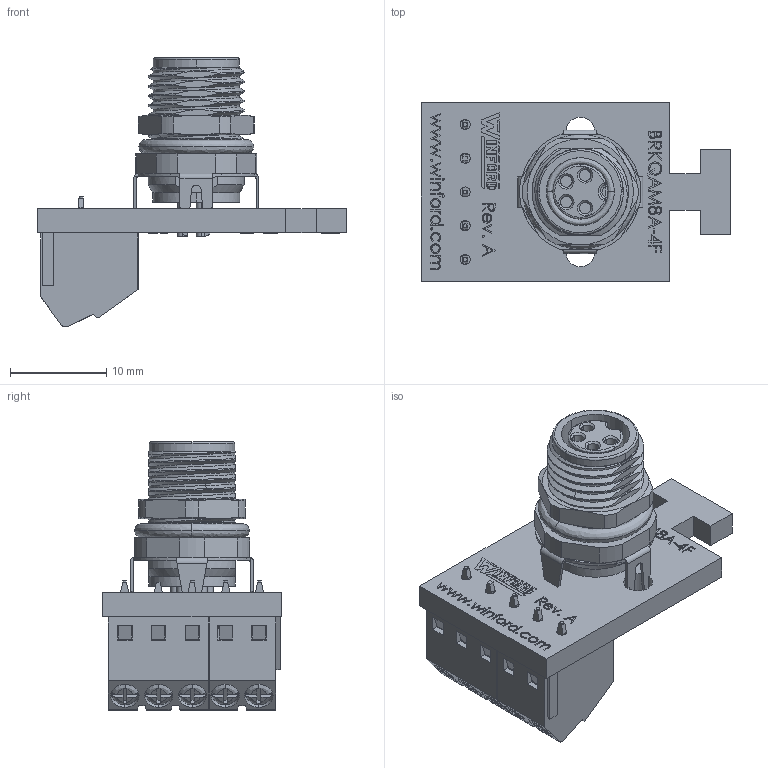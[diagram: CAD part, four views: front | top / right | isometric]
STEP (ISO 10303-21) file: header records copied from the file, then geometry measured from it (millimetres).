
FILE_DESCRIPTION (( 'STEP AP214' ), '1' );
FILE_NAME ('brkqam8a-4a-a_rev_a.stp', '2020-09-09T02:26:45', ( '' ), ( '' ), 'SwSTEP 2.0', 'SolidWorks 2017', '' );
FILE_SCHEMA (( 'AUTOMOTIVE_DESIGN' ));
Length unit declared in the file: inch
Products named in the file (5): Eurostyle PCB Terminal 2; Eurostyle PCB Terminal 3; BRKQAM8A Board; 4 Pos Connector; brkqam8a-4a-a_rev_a
Assembly tree (4 placements, depth 2):
  brkqam8a-4a-a_rev_a
    BRKQAM8A Board
    4 Pos Connector
    Eurostyle PCB Terminal 2
    Eurostyle PCB Terminal 3
Bounding box: 32.13 x 18.54 x 27.89 mm (x, y, z)
Volume: 2435.6 mm3; surface area: 4256.4 mm2
Topology: 2 solids, 8 shells, 1828 faces, 4825 edges, 3176 vertices
Faces by surface type: plane 1268, bspline 324, cylinder 201, cone 35
Entity records: 91615 total; most frequent: CARTESIAN_POINT 35490, ORIENTED_EDGE 9630, DIRECTION 7234, EDGE_CURVE 4821, LINE 3500, VECTOR 3500, VERTEX_POINT 3176, EDGE_LOOP 2025
